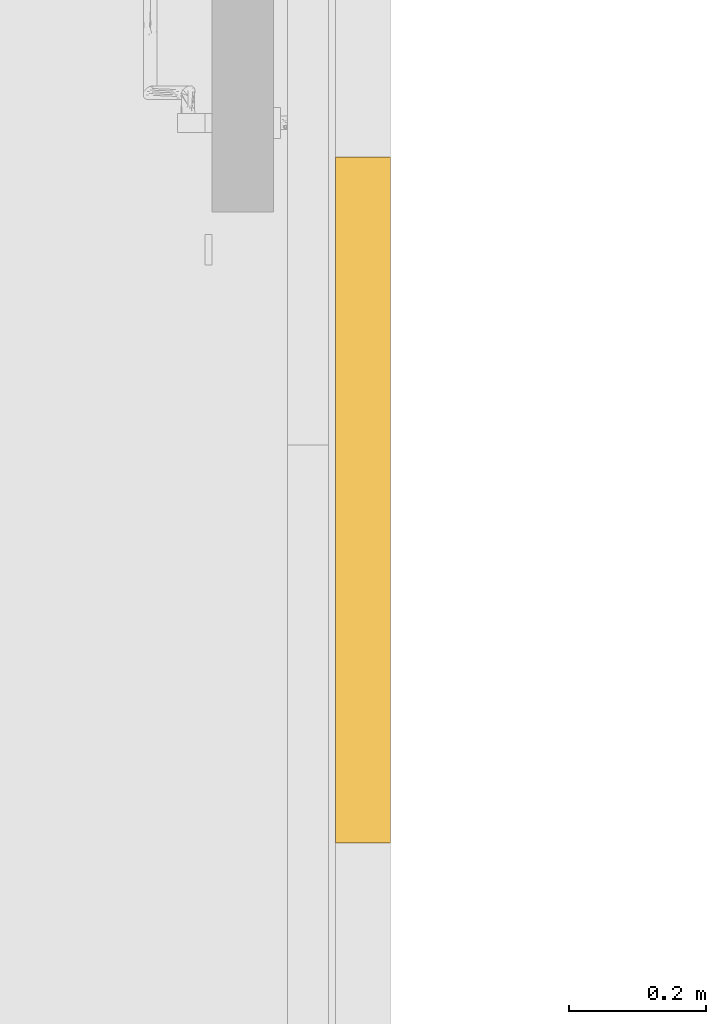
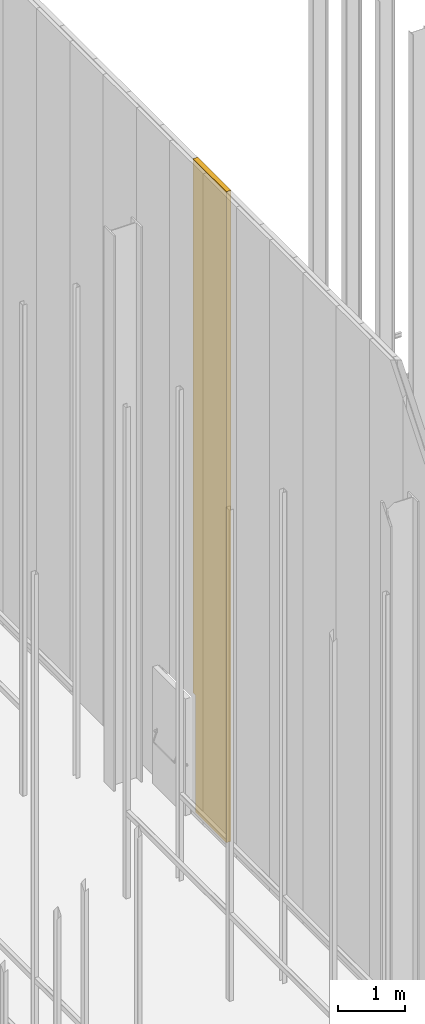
# One storey, part 243 of 302: 1 curtain wall, 1 opening, 1 element without a shape of its own.
"""IFC2X3 building model written with IfcOpenShell, lengths in metres."""

from ifc_helpers import new_model, entity, si_unit, converted_unit, derived_unit, direction, frame, frame_2d, origin, origin_2d_with_axis, place, context, subcontext, project, spatial, rectangle, extrude, material, layer, layer_set, layer_usage, type_object, element, aggregate, save


model = new_model("IFC2X3")

# Units and contexts
model_context = context("Model", 3, precision=1e-05, world=origin(), true_north=direction((6.12303176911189e-17, 1.0)))
body_context = subcontext(model_context, "Body", "Model", "MODEL_VIEW")
ifc_project = project(units=[si_unit("LENGTHUNIT", "METRE"), si_unit("AREAUNIT", "SQUARE_METRE"), si_unit("VOLUMEUNIT", "CUBIC_METRE"), converted_unit("PLANEANGLEUNIT", "DEGREE", entity("IfcRatioMeasure", 0.0174532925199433), si_unit("PLANEANGLEUNIT", "RADIAN"), dimensions=[0, 0, 0, 0, 0, 0, 0]), si_unit("MASSUNIT", "GRAM", prefix="KILO"), derived_unit("MASSDENSITYUNIT", [(si_unit("MASSUNIT", "GRAM", prefix="KILO"), 1), (si_unit("LENGTHUNIT", "METRE"), -3)]), derived_unit("MOMENTOFINERTIAUNIT", [(si_unit("LENGTHUNIT", "METRE"), 4)]), si_unit("TIMEUNIT", "SECOND"), si_unit("FREQUENCYUNIT", "HERTZ"), si_unit("THERMODYNAMICTEMPERATUREUNIT", "DEGREE_CELSIUS"), derived_unit("THERMALTRANSMITTANCEUNIT", [(si_unit("MASSUNIT", "GRAM", prefix="KILO"), 1), (si_unit("THERMODYNAMICTEMPERATUREUNIT", "KELVIN"), -1), (si_unit("TIMEUNIT", "SECOND"), -3)]), derived_unit("VOLUMETRICFLOWRATEUNIT", [(si_unit("LENGTHUNIT", "METRE"), 3), (si_unit("TIMEUNIT", "SECOND"), -1)]), si_unit("ELECTRICCURRENTUNIT", "AMPERE"), si_unit("ELECTRICVOLTAGEUNIT", "VOLT"), si_unit("POWERUNIT", "WATT"), si_unit("FORCEUNIT", "NEWTON", prefix="KILO"), si_unit("ILLUMINANCEUNIT", "LUX"), si_unit("LUMINOUSFLUXUNIT", "LUMEN"), si_unit("LUMINOUSINTENSITYUNIT", "CANDELA"), derived_unit("USERDEFINED", [(si_unit("MASSUNIT", "GRAM", prefix="KILO"), -1), (si_unit("LENGTHUNIT", "METRE"), -2), (si_unit("TIMEUNIT", "SECOND"), 3), (si_unit("LUMINOUSFLUXUNIT", "LUMEN"), 1)]), derived_unit("LINEARVELOCITYUNIT", [(si_unit("LENGTHUNIT", "METRE"), 1), (si_unit("TIMEUNIT", "SECOND"), -1)]), si_unit("PRESSUREUNIT", "PASCAL"), derived_unit("USERDEFINED", [(si_unit("LENGTHUNIT", "METRE"), -2), (si_unit("MASSUNIT", "GRAM", prefix="KILO"), 1), (si_unit("TIMEUNIT", "SECOND"), -2)]), derived_unit("LINEARFORCEUNIT", [(si_unit("MASSUNIT", "GRAM", prefix="KILO"), 1), (si_unit("LENGTHUNIT", "METRE"), 1), (si_unit("TIMEUNIT", "SECOND"), -2), (si_unit("LENGTHUNIT", "METRE"), -1)]), derived_unit("PLANARFORCEUNIT", [(si_unit("MASSUNIT", "GRAM", prefix="KILO"), 1), (si_unit("LENGTHUNIT", "METRE"), 1), (si_unit("TIMEUNIT", "SECOND"), -2), (si_unit("LENGTHUNIT", "METRE"), -2)])], contexts=[model_context])

# Site, building, storey
site_placement = place(None, origin())
site = spatial("IfcSite", under=ifc_project, at=site_placement, Name="Default", CompositionType="ELEMENT")
building_placement = place(site_placement, origin())
building = spatial("IfcBuilding", under=site, at=building_placement, CompositionType="ELEMENT")
storey_placement = place(building_placement, frame((0.0, 0.0, -1.3)))
storey = spatial("IfcBuildingStorey", under=building, at=storey_placement, Name="00_EG", CompositionType="ELEMENT", Elevation=-1.3)

# Curtain walls, opening
curtain_wall_type_1 = type_object("IfcCurtainWallType", PredefinedType="NOTDEFINED")
curtain_wall_1_placement = place(storey_placement, frame((0.0, 0.0, 1.3)))
curtain_wall_1 = element("IfcCurtainWall", 1, at=curtain_wall_1_placement, inside=storey, type_object=curtain_wall_type_1)
ifc_material_1 = material(Name="Prepainted_Steel-ArcelorMittal_Construction_HAIRULTRA-35-CORAL-4309-[RAL_3000]")
ifc_layer_1 = layer(ifc_material_1, 0.01)
ifc_material_2 = material(Name="ArcelorMittal-MineralWool")
ifc_layer_2 = layer(ifc_material_2, 0.06)
ifc_layer_3 = layer(ifc_material_1, 0.01)
ifc_layer_set = layer_set([ifc_layer_1, ifc_layer_2, ifc_layer_3], Name="Fassade:Sandwichpaneele Gebäude B 80mm")
ifc_layer_usage = layer_usage(ifc_layer_set, "AXIS2", "POSITIVE", -0.04)
curtain_wall_type_2 = type_object("IfcCurtainWallType", Name="Basiswand:Sandwichpaneele d = 8cm aussen", PredefinedType="NOTDEFINED", material=ifc_layer_set)
curtain_wall_2_placement = place(storey_placement, frame((-177.310111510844, 47.1680889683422, 1.27), z_axis=(0.0, 0.0, 1.0), x_axis=(0.0, -1.0, 0.0)))
curtain_wall_2 = element("IfcCurtainWall", 2, at=curtain_wall_2_placement, type_object=curtain_wall_type_2, material=ifc_layer_usage, Name="Basiswand:Sandwichpaneele d = 8cm aussen", ObjectType="Basiswand:Sandwichpaneele d = 8cm aussen", context=body_context, shape_type="SweptSolid", body=[
    extrude(rectangle(XDim=0.999999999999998, YDim=0.0799999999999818, at=frame_2d((0.499999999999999, 0.0), x_axis=(-1.0, 0.0))), origin(), (0.0, 0.0, 1.0), 11.9314),
])
opening_placement = place(curtain_wall_2_placement, origin())
opening = element("IfcOpeningElement", 3, at=opening_placement, cuts=curtain_wall_2, Name="Basiswand:Sandwichpaneele d = 8cm aussen", ObjectType="Opening", context=body_context, shape_type="SweptSolid", body=[
    extrude(rectangle(XDim=2.16999999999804, YDim=0.980000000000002, at=origin_2d_with_axis()), frame((-0.410000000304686, -0.129999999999, 1.054999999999), z_axis=(0.0, 1.0, 0.0), x_axis=(0.0, 0.0, -1.0)), (0.0, 0.0, 1.0), 0.169999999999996),
])
aggregate(curtain_wall_1, [curtain_wall_2, opening])

save(model, "model.ifc")
